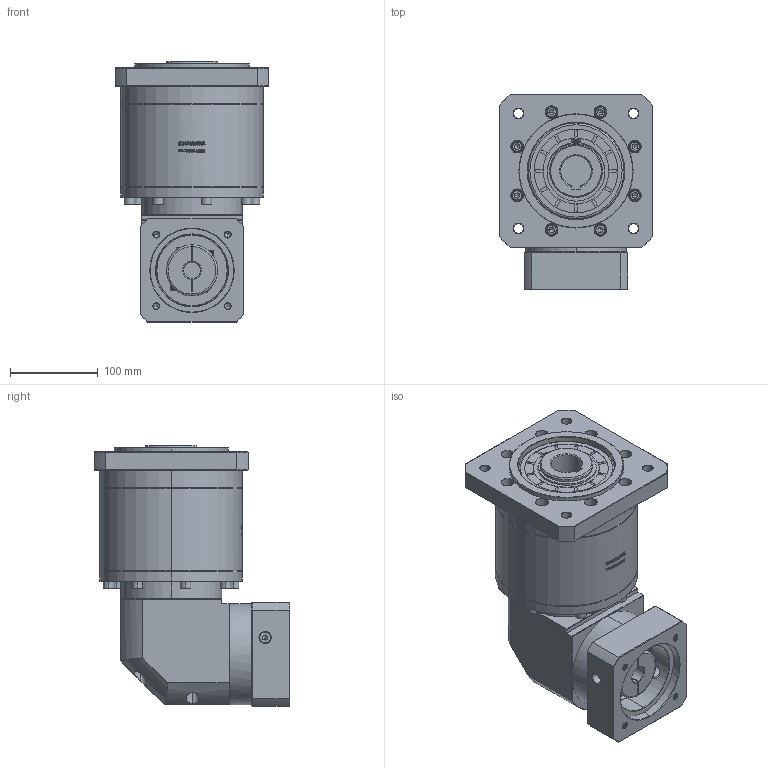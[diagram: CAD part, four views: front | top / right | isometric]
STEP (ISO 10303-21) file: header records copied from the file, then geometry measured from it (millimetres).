
FILE_DESCRIPTION (( 'STEP AP214' ), '1' );
FILE_NAME ('ZFR160A-K35-L3-19-95-115-M8.step', '2023-03-25T02:00:06', ( '' ), ( '' ), 'SwSTEP 2.0', 'SolidWorks 2016', '' );
FILE_SCHEMA (( 'AUTOMOTIVE_DESIGN' ));
Length unit declared in the file: millimetre
Products named in the file (1): ZFR160A-K35-L3-19-95-115-M8
Bounding box: 175 x 222.4 x 296.2 mm (x, y, z)
Volume: 5488410.7 mm3; surface area: 353834.2 mm2
Topology: 6 solids, 6 shells, 2723 faces, 7119 edges, 4568 vertices
Faces by surface type: plane 1366, bspline 490, cylinder 459, cone 364, torus 44
Entity records: 143591 total; most frequent: CARTESIAN_POINT 50807, ORIENTED_EDGE 14134, DIRECTION 11201, EDGE_CURVE 7067, VERTEX_POINT 4568, VECTOR 4443, LINE 4443, AXIS2_PLACEMENT_3D 3379
